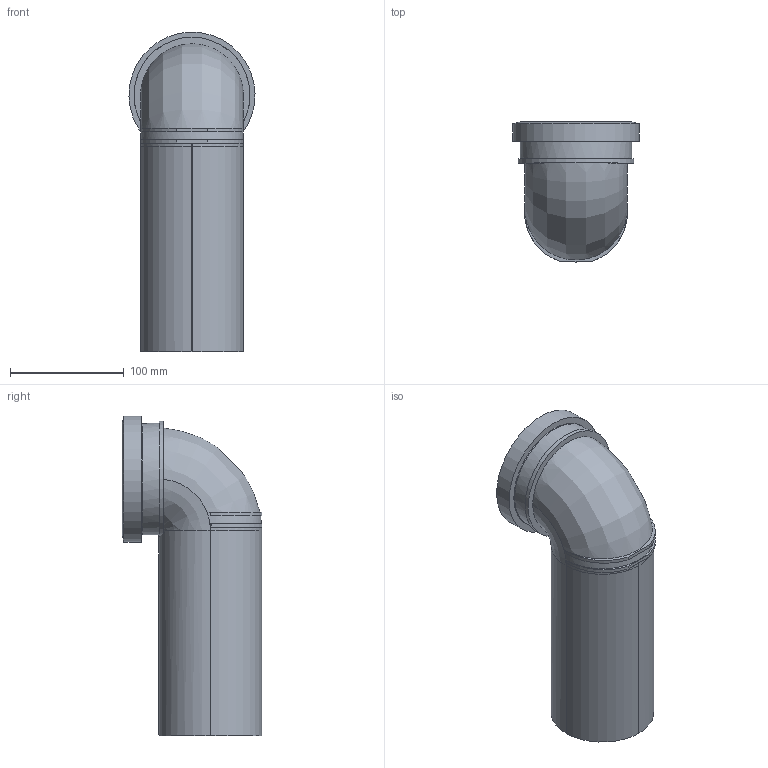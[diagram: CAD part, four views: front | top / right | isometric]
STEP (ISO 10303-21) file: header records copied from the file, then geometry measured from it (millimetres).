
FILE_DESCRIPTION(/* description */ ('CAx-IF Rec.Pracs.---Model Styling and Organization---1.2---2011-12-15'),/* implementation_level */ '2;1');
FILE_NAME(/* name */ 'C:\Geberit-Teile\Export 2019\366.925.16.1\stp\366925.stp',/* time_stamp */ '2019-05-09T13:37:11+02:00',/* author */ ('JANAN'),/* organization */ (''),/* preprocessor_version */ 'ST-DEVELOPER v16.13',/* originating_system */ 'Autodesk Inventor 2018',/* authorisation */ '');
FILE_SCHEMA (('AUTOMOTIVE_DESIGN { 1 0 10303 214 3 1 1 }'));
Length unit declared in the file: millimetre
Products named in the file (1): AnBogen PE-HD 90G d90/90 L22.5/7.5
Bounding box: 110.96 x 122.98 x 281.48 mm (x, y, z)
Volume: 304662.3 mm3; surface area: 170851.1 mm2
Topology: 1 solids, 1 shells, 51 faces, 133 edges, 88 vertices
Faces by surface type: plane 30, cylinder 13, bspline 3, cone 3, torus 2
Full cylindrical faces by diameter (mm): 83.025 x1, 90.375 x1, 91.445 x1, 92.195 x1, 98.195 x1, 104.295 x1, 110.995 x1
Entity records: 3224 total; most frequent: CARTESIAN_POINT 1952, DIRECTION 245, ORIENTED_EDGE 234, EDGE_CURVE 117, AXIS2_PLACEMENT_3D 101, VERTEX_POINT 83, EDGE_LOOP 68, STYLED_ITEM 52
